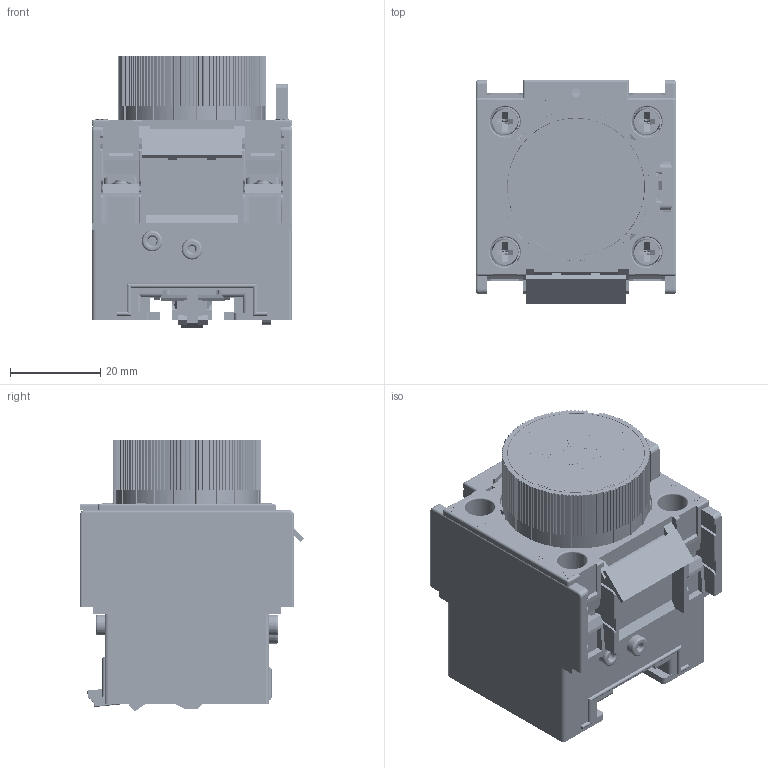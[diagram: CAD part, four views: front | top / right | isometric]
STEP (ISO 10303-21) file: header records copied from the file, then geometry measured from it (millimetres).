
FILE_DESCRIPTION (( 'STEP AP214' ), '1' );
FILE_NAME ('FY1 (1).STEP', '2026-01-30T09:40:13', ( '' ), ( '' ), 'SwSTEP 2.0', 'SolidWorks 2024', '' );
FILE_SCHEMA (( 'AUTOMOTIVE_DESIGN' ));
Length unit declared in the file: millimetre
Products named in the file (45): 8ABB_234_6000_1.stp; 8ABB_206_6001_1.stp; 8ABB_869_6000_1.stp; 8ABB_282_6009_AF0_1.stp; 5ABB_850_6000_ASM_1.stp; 8ABB_901_6000_1.stp; 8ABB_022_6000_1.stp; 8ABB_235_6000_1.stp; 8ABB_868_6000_1.stp; 5ABB_553_6002_2_ASM_1.stp; 8ABB_885_6000_1.stp; 8ABB_553_6000_1.stp; 8ABB_371_6000_1.stp; 8ABB_127_6000_1.stp; 8ABB_550_6024_AF0_1.stp; 8ABB_550_6025_AF1_1.stp; 8ABB_282_6007_AF0_1.stp; 8ABB_557_6000_AF0_1.stp; 5ABB_022_6000_2_ASM_1.stp; 5ABB_550_6000_ASM_1.stp; 8ABB_253_6001_1.stp; 8ABB_270_6000_1.stp; FY1 (1); 8ABB_157_6001_1.stp; 8ABB_104_6000_1.stp; 8ABB_959_6000_1.stp; 8ABB_315_6001_1.stp; 8ABB_157_6002_1.stp; 5ABB_005_6000_ASM_1.stp; 8ABB_253_6000_1.stp; 8ABB_314_6000_1.stp; FY1 (1).stp; GB_T845_1.stp; 8ABB_104_6001_1.stp; 8ABB_005_6000_1.stp; 8ABB_206_6000_2_1.stp; 8ABB_468_6000_1.stp; 8ABB_157_6000_1.stp; 8ABB_255_6000_1.stp; 8ABB_322_6000_1.stp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
Assembly tree (56 placements, depth 6):
  FY1 (1)
    FY1 (1).stp
      5ABB_022_6000_2_ASM_1.stp
        5ABB_553_6002_2_ASM_1.stp
          5ABB_553_6000_ASM_1.stp  x2
            8ABB_553_6000_1.stp
            8ABB_550_6025_AF1_1.stp
            8ABB_550_6025_AF0_1.stp
          8ABB_127_6000_1.stp
          8ABB_104_6001_1.stp
          8ABB_104_6000_1.stp
          8ABB_234_6000_1.stp
          8ABB_206_6000_1_1.stp
          8ABB_255_6000_1.stp
        8ABB_022_6000_1.stp
        8ABB_270_6000_1.stp
        8ABB_253_6000_1.stp
        8ABB_206_6000_1_1.stp  x2
        8ABB_206_6000_2_1.stp
        8ABB_206_6001_1.stp
        8ABB_885_6000_1.stp
      5ABB_005_6000_ASM_1.stp
        5ABB_468_6000_ASM_1.stp
          8ABB_322_6000_1.stp
          8ABB_468_6000_1.stp
          8ABB_235_6000_1.stp
          8ABB_282_6007_AF0_1.stp
        5ABB_550_6000_ASM_1.stp  x4
          8ABB_557_6000_AF0_1.stp
          8ABB_550_6024_AF0_1.stp
        5ABB_850_6000_ASM_1.stp  x4
          8ABB_901_6000_1.stp
          8ABB_959_6000_1.stp
        8ABB_005_6000_1.stp
        8ABB_157_6000_1.stp
        8ABB_157_6001_1.stp
        8ABB_253_6001_1.stp
        8ABB_157_6002_1.stp
        8ABB_371_6000_1.stp
        8ABB_314_6000_1.stp
        8ABB_282_6009_AF0_1.stp
        GB846-ST29X9F_1.stp
        8ABB_869_6000_1.stp
        8ABB_315_6001_1.stp
        8ABB_868_6000_1.stp
      GB_T845_1.stp  x4
Bounding box: 44.5 x 49.75 x 60.22 mm (x, y, z)
Volume: 39417.6 mm3; surface area: 70312 mm2
Topology: 47 solids, 67 shells, 6126 faces, 16585 edges, 10752 vertices
Faces by surface type: plane 3991, cylinder 1236, bspline 466, cone 187, torus 160, sphere 86
Entity records: 165798 total; most frequent: CARTESIAN_POINT 44378, ORIENTED_EDGE 26204, DIRECTION 22993, EDGE_CURVE 13109, VECTOR 9619, LINE 9619, VERTEX_POINT 8579, AXIS2_PLACEMENT_3D 6687
